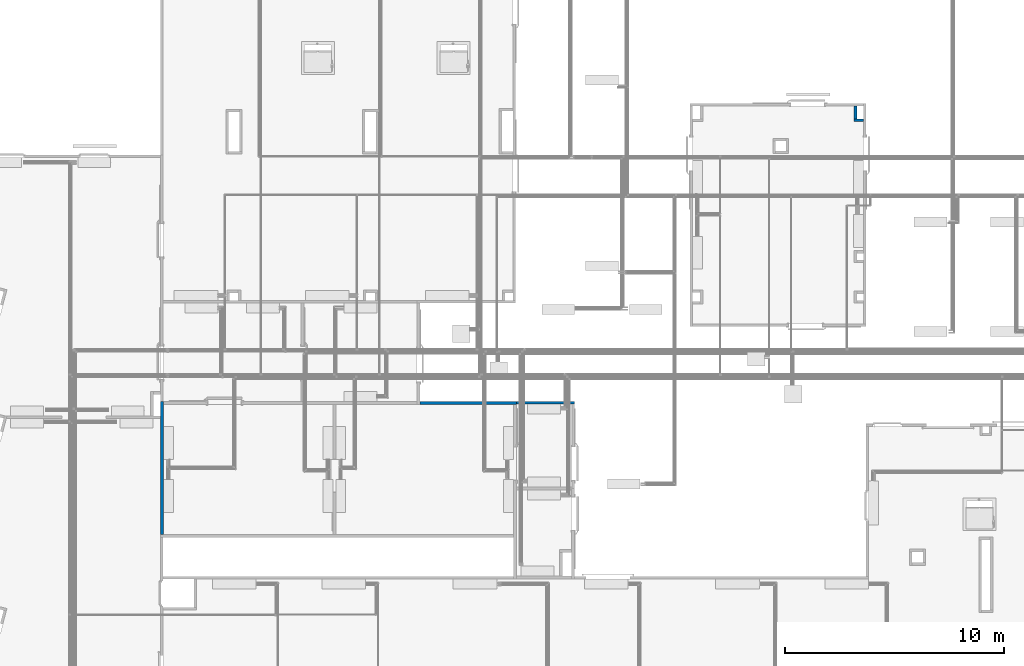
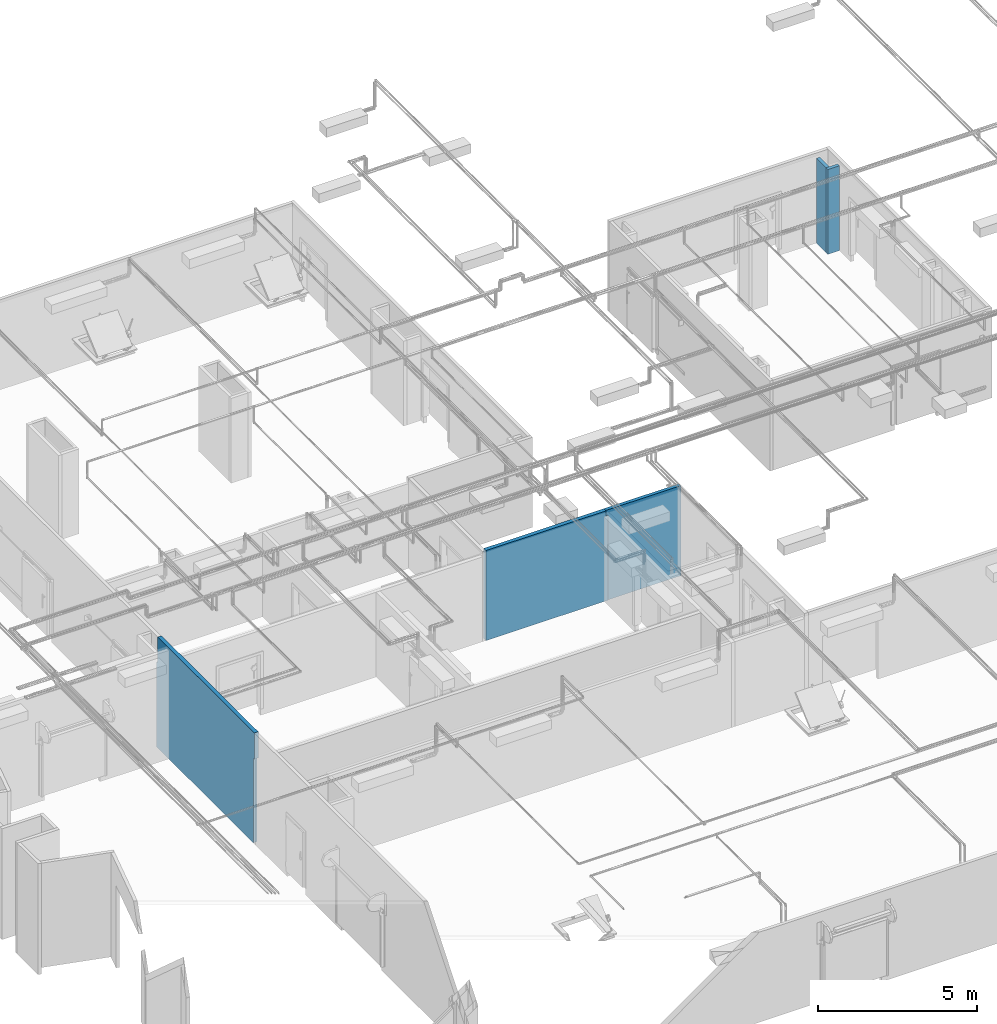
# One storey, part 35 of 652: 5 walls.
"""IFC2X3 building model written with IfcOpenShell, lengths in millimetres."""

from ifc_helpers import new_model, entity, si_unit, converted_unit, direction, frame, frame_2d, origin, place, context, subcontext, project, spatial, rectangle, extrude, faceted_brep, material, layer, layer_set, layer_usage, type_object, element, save


model = new_model("IFC2X3")

# Units and contexts
model_context = context("Model", 3, precision=0.01, world=frame((0.0, 0.0, 308426.39999999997)), true_north=direction((6.123233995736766e-17, 1.0)))
plan_context = context("Plan", 3, precision=0.01, world=frame((0.0, 0.0, 308426.39999999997)), true_north=direction((6.123233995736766e-17, 1.0)))
body_context = subcontext(model_context, "Body", "Model", "MODEL_VIEW")
ifc_project = project(units=[si_unit("LENGTHUNIT", "METRE", prefix="MILLI"), si_unit("AREAUNIT", "SQUARE_METRE"), si_unit("VOLUMEUNIT", "CUBIC_METRE"), converted_unit("PLANEANGLEUNIT", "DEGREE", entity("IfcPlaneAngleMeasure", 0.017453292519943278), si_unit("PLANEANGLEUNIT", "RADIAN"), dimensions=[0, 0, 0, 0, 0, 0, 0])], contexts=[model_context, plan_context])

# Site, building, storey
site_placement = place(None, origin())
site = spatial("IfcSite", under=ifc_project, at=site_placement, Name="Default", CompositionType="ELEMENT")
building_placement = place(site_placement, origin())
building = spatial("IfcBuilding", under=site, at=building_placement, CompositionType="ELEMENT")
storey_placement = place(building_placement, frame((0.0, 0.0, 1730.6999999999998)))
storey = spatial("IfcBuildingStorey", under=building, at=storey_placement, Name="EG_Produktion_FFB", CompositionType="ELEMENT", Elevation=1730.6999999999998)

# Walls
ifc_material = material(Name="GPG_Paneelwand")
ifc_layer_1 = layer(ifc_material, 120.0)
ifc_layer_set_1 = layer_set([ifc_layer_1], Name="Basiswand:Kühlzellen Paneelwand 120")
wall_type_1 = type_object("IfcWallType", Name="Basiswand:Kühlzellen Paneelwand 120", PredefinedType="STANDARD", material=ifc_layer_set_1)
wall_1_placement = place(storey_placement, frame((35355.0, 58657.905840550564, -250.0)))
element("IfcWall", 1, at=wall_1_placement, inside=storey, type_object=wall_type_1, Name="Basiswand:Kühlzellen Paneelwand 120", ObjectType="Basiswand:Kühlzellen Paneelwand 120", context=body_context, shape_type="Brep", body=[
    faceted_brep([(70.0, -60.0, 0.0), (2600.0, -60.0, 0.0), (2720.0, -60.0, 0.0), (2720.0, -60.0, 3450.0), (2600.0, -60.0, 3450.0), (0.0, -60.0, 3450.0), (0.0, -60.0, 3250.0), (70.0, -60.0, 3250.0), (70.0, 60.0, 0.0), (70.0, 60.0, 3250.0), (0.0, 60.0, 3250.0), (0.0, 60.0, 3450.0), (2720.0, 60.0, 3450.0), (2720.0, 60.0, 0.0)], [[[0, 1, 2, 3, 4, 5, 6, 7]], [[8, 9, 10, 11, 12, 13]], [[2, 1, 0, 8, 13]], [[5, 4, 3, 12, 11]], [[3, 2, 13, 12]], [[6, 5, 11, 10]], [[6, 10, 9, 7]], [[0, 7, 9, 8]]]),
])
ifc_layer_usage_1 = layer_usage(ifc_layer_set_1, "AXIS2", "POSITIVE", -60.0)
wall_2_placement = place(storey_placement, frame((50860.0, 71570.0, -250.0)))
element("IfcWallStandardCase", 2, at=wall_2_placement, inside=storey, type_object=wall_type_1, material=ifc_layer_usage_1, Name="Basiswand:Kühlzellen Paneelwand 120", ObjectType="Basiswand:Kühlzellen Paneelwand 120", context=body_context, shape_type="SweptSolid", body=[
    extrude(rectangle(XDim=420.00000000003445, YDim=120.00000000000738, at=frame_2d((210.00000000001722, 8.668621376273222e-13), x_axis=(-1.0, 0.0))), origin(), (0.0, 0.0, 1.0), 3249.9999999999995),
])
ifc_layer_usage_2 = layer_usage(ifc_layer_set_1, "AXIS2", "POSITIVE", -60.0)
wall_3_placement = place(storey_placement, frame((50920.0, 72230.0, -250.0), z_axis=(0.0, 0.0, 1.0), x_axis=(0.0, -1.0, 0.0)))
element("IfcWallStandardCase", 3, at=wall_3_placement, inside=storey, type_object=wall_type_1, material=ifc_layer_usage_2, Name="Basiswand:Kühlzellen Paneelwand 120", ObjectType="Basiswand:Kühlzellen Paneelwand 120", context=body_context, shape_type="SweptSolid", body=[
    extrude(rectangle(XDim=600.0000000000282, YDim=120.00000000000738, at=frame_2d((300.0000000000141, -2.4868995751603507e-12), x_axis=(-1.0, 0.0))), origin(), (0.0, 0.0, 1.0), 3249.9999999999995),
])
ifc_layer_2 = layer(ifc_material, 140.0)
ifc_layer_set_2 = layer_set([ifc_layer_2], Name="Basiswand:Kühlzellen Paneelwand 140")
wall_type_2 = type_object("IfcWallType", Name="Basiswand:Kühlzellen Paneelwand 140", PredefinedType="STANDARD", material=ifc_layer_set_2)
wall_4_placement = place(storey_placement, frame((19220.0, 52580.0, -250.0), z_axis=(0.0, 0.0, 1.0), x_axis=(0.0, 1.0, 0.0)))
element("IfcWall", 4, at=wall_4_placement, inside=storey, type_object=wall_type_2, Name="Basiswand:Kühlzellen Paneelwand 140", ObjectType="Basiswand:Kühlzellen Paneelwand 140", context=body_context, shape_type="Brep", body=[
    faceted_brep([(70.0, -70.0, 0.0), (5997.9058405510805, -70.0, 0.0), (6137.9058405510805, -70.0, 0.0), (6137.9058405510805, -70.0, 3250.0), (6067.9058405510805, -70.0, 3250.0), (6067.9058405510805, -70.0, 4250.0), (0.0, -70.0, 4250.0), (0.0, -70.0, 3250.0), (70.0, -70.0, 3250.0), (70.0, 70.0, 0.0), (70.0, 70.0, 3250.0), (0.0, 70.0, 3250.0), (0.0, 70.0, 4250.0), (6067.9058405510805, 70.0, 4250.0), (6067.9058405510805, 70.0, 3250.0), (6137.9058405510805, 70.0, 3250.0), (6137.9058405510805, 70.0, 0.0), (5487.90584055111, 70.0, 0.0), (5367.90584055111, 70.0, 0.0), (6137.9058405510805, -50.0, 0.0), (6067.9058405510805, -50.0, 4250.0), (0.0, -50.0, 4250.0), (0.0, -50.0, 3250.0), (6067.9058405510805, -50.0, 3250.0), (6137.9058405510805, -50.0, 3250.0)], [[[0, 1, 2, 3, 4, 5, 6, 7, 8]], [[9, 10, 11, 12, 13, 14, 15, 16, 17, 18]], [[2, 1, 0, 9, 18, 17, 16, 19]], [[6, 5, 20, 13, 12, 21]], [[7, 6, 21, 12, 11, 22]], [[0, 8, 10, 9]], [[7, 22, 11, 10, 8]], [[5, 4, 23, 14, 13, 20]], [[14, 23, 4, 3, 24, 15]], [[3, 2, 19, 16, 15, 24]]]),
])
wall_5_placement = place(storey_placement, frame((31000.0, 58647.905840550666, -250.0)))
element("IfcWall", 5, at=wall_5_placement, inside=storey, type_object=wall_type_2, Name="Basiswand:Kühlzellen Paneelwand 140", ObjectType="Basiswand:Kühlzellen Paneelwand 140", context=body_context, shape_type="Brep", body=[
    faceted_brep([(0.0, -70.0, 3450.0), (0.0, -70.0, 0.0), (4285.0, -70.0, 0.0), (4425.0, -70.0, 0.0), (4425.0, -70.0, 3250.0), (4355.0, -70.0, 3250.0), (4355.0, -70.0, 3450.0), (0.0, 70.0, 0.0), (0.0, 70.0, 3450.0), (4355.0, 70.0, 3450.0), (4355.0, 70.0, 3250.0), (4425.0, 70.0, 3250.0), (4425.0, 70.0, 0.0), (4425.0, -50.0, 0.0), (4355.0, -50.0, 3450.0), (4355.0, -50.0, 3250.0), (4425.0, -50.0, 3250.0)], [[[0, 1, 2, 3, 4, 5, 6]], [[7, 8, 9, 10, 11, 12]], [[3, 2, 1, 7, 12, 13]], [[0, 6, 14, 9, 8]], [[6, 5, 15, 10, 9, 14]], [[4, 3, 13, 12, 11, 16]], [[10, 15, 5, 4, 16, 11]], [[0, 8, 7, 1]]]),
])

save(model, "model.ifc")
